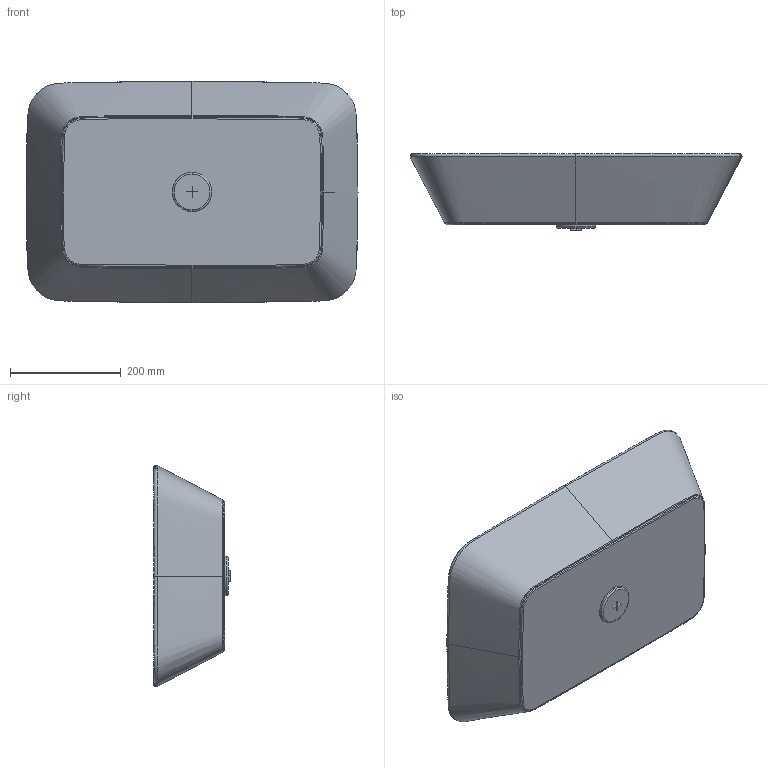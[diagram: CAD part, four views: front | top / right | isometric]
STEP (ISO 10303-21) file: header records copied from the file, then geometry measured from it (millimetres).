
FILE_DESCRIPTION((''),'2;1');
FILE_NAME('E0348_MK1_3DPL','2015-10-07T',('TotevD'),('AMERICAN STANDARD B&K'),'PRO/ENGINEER BY PARAMETRIC TECHNOLOGY CORPORATION, 2011330','PRO/ENGINEER BY PARAMETRIC TECHNOLOGY CORPORATION, 2011330','');
FILE_SCHEMA(('CONFIG_CONTROL_DESIGN'));
Length unit declared in the file: millimetre
Products named in the file (1): E0348_MK1_3DPL
Bounding box: 600.03 x 138.03 x 400.03 mm (x, y, z)
Volume: 8233039.9 mm3; surface area: 655710.7 mm2
Topology: 1 solids, 4 shells, 54 faces, 148 edges, 100 vertices
Faces by surface type: bspline 40, plane 9, cone 2, torus 2, extrusion 1
Entity records: 12529 total; most frequent: CARTESIAN_POINT 11422, ORIENTED_EDGE 284, EDGE_CURVE 148, DIRECTION 117, VERTEX_POINT 100, B_SPLINE_CURVE_WITH_KNOTS 97, EDGE_LOOP 55, FACE_OUTER_BOUND 54
